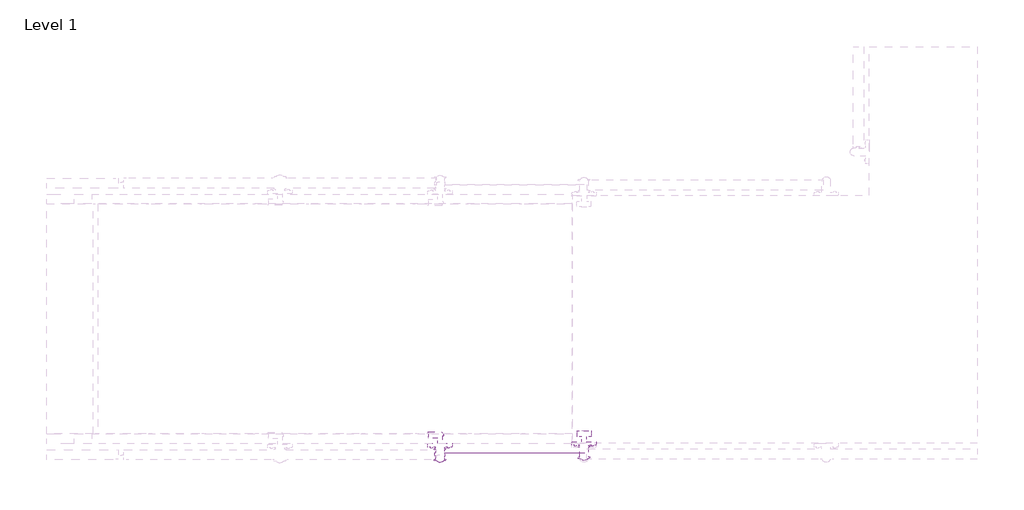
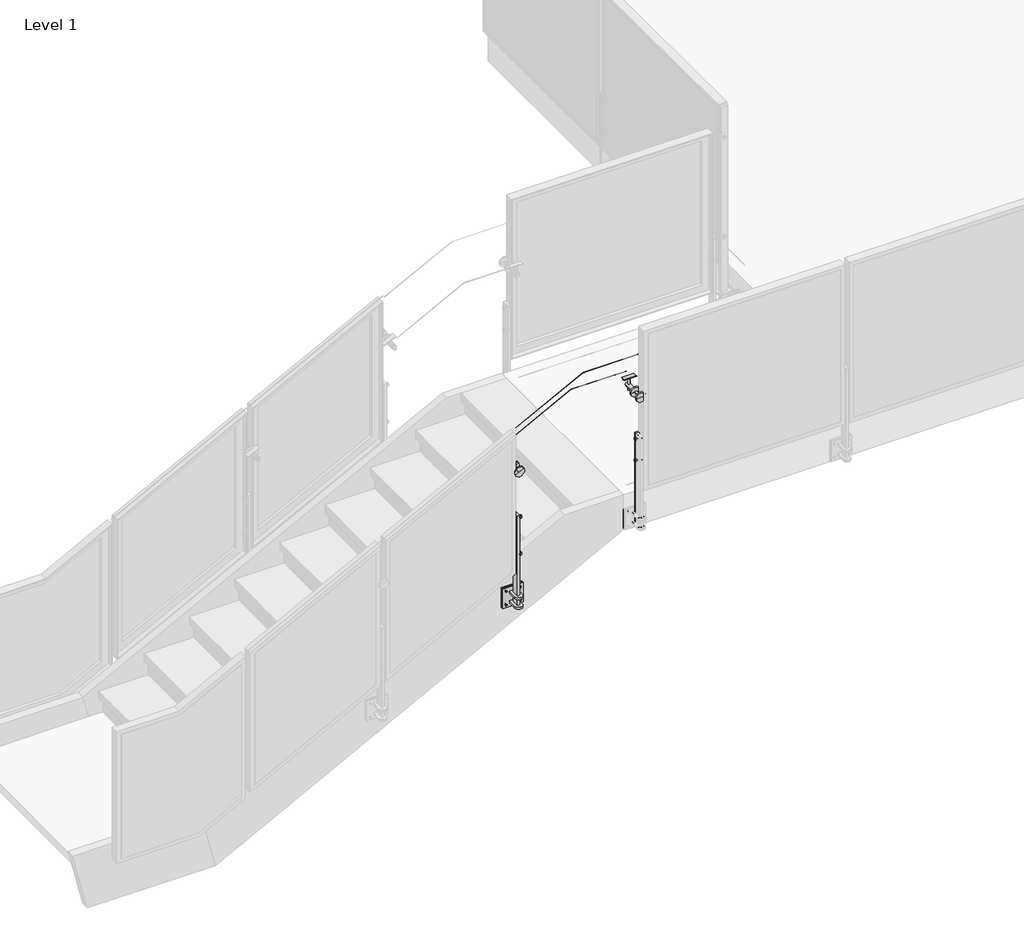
# One storey, part 24 of 37: 1 proxy, 1 railing.
"""IFC4 building model written with IfcOpenShell, lengths in millimetres."""

from ifc_helpers import new_model, si_unit, point, frame, frame_2d, origin, place, context, project, spatial, polyline, circle_curve, ellipse_curve, trimmed, segment, composite_curve, outline, extrude, transform, mapped, element, save
from ifc_brep_helpers import plane_surface, cylinder_surface, advanced_brep
from components import baluster_end_post_viva_frame_top_mount_stairs_welded_fascia_58373508

model = new_model("IFC4")

# Units and contexts
model_context = context("Model", 3, world=origin())
ifc_project = project(units=[si_unit("LENGTHUNIT", "METRE", prefix="MILLI")], contexts=[model_context])

# Site, building, storey
site = spatial("IfcSite", under=ifc_project)
building = spatial("IfcBuilding", under=site)
storey = spatial("IfcBuildingStorey", under=building, Name="Level 1", Elevation=0.0)

# Proxy
placement = place(None, origin())
baluster_end_post_viva_frame_top_mount_stairs_welded_fascia_shape = baluster_end_post_viva_frame_top_mount_stairs_welded_fascia_58373508(model_context)
element("IfcBuildingElementProxy", 1, Name="Baluster-End-Post-VIVA-FRAME-Top Mount Stairs : WELDED Fascia MOUNT FRAME_STAIR", ObjectType="Baluster-End-Post-VIVA-FRAME-Top Mount Stairs : WELDED Fascia MOUNT FRAME_STAIR", at=placement, inside=storey, context=model_context, shape_type="MappedRepresentation", body=[
    mapped(baluster_end_post_viva_frame_top_mount_stairs_welded_fascia_shape, transform((-7412.9434339, -3831.4784112, 3784.092), x_axis=(1.0, 0.0, 0.0), y_axis=(0.0, 1.0, 0.0), z_axis=(0.0, 0.0, 1.0))),
])

# Railing
element("IfcRailing", 2, ObjectType="Metal-Panel-VIVA-FRAME-Fascia-Stairs-Landing-Upper", at=placement, inside=storey, context=model_context, shape_type="SolidModel", body=[
    advanced_brep(
    [(-8168.6029585, -3831.7324112, 3568.458378), (-8168.6029585, -3831.2244112, 3568.458378), (-7753.0192861, -3831.7324112, 3784.346), (-7753.0192861, -3831.2244112, 3784.346), (-7412.9434339, -3831.7324112, 3784.346), (-7412.9434339, -3831.2244112, 3784.346)],
    [
        (0, 1, ellipse_curve(frame((-8168.6029585, -3831.4784112, 3568.458378), z_axis=(-1.0, 0.0, 0.0), x_axis=(0.0, 0.0, -1.0)), 0.2862277, 0.254)),
        (1, 0, ellipse_curve(frame((-8168.6029585, -3831.4784112, 3568.458378), z_axis=(-1.0, 0.0, 0.0), x_axis=(0.0, 0.0, -1.0)), 0.2862277, 0.254)),
        (0, 2),
        (2, 3, ellipse_curve(frame((-7753.0192861, -3831.4784112, 3784.346), z_axis=(-0.9714436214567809, 0.0, -0.23727050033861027), x_axis=(0.23727050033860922, 0.0, -0.9714436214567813)), 0.2614665, 0.254)),
        (3, 1),
        (3, 2, ellipse_curve(frame((-7753.0192861, -3831.4784112, 3784.346), z_axis=(-0.9714436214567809, 0.0, -0.23727050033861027), x_axis=(0.23727050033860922, 0.0, -0.9714436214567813)), 0.2614665, 0.254)),
        (4, 5, circle_curve(frame((-7412.9434339, -3831.4784112, 3784.346), z_axis=(1.0, 0.0, 0.0), x_axis=(0.0, 1.0, 0.0)), 0.254)),
        (5, 4, circle_curve(frame((-7412.9434339, -3831.4784112, 3784.346), z_axis=(1.0, 0.0, 0.0), x_axis=(0.0, 1.0, 0.0)), 0.254)),
        (2, 4),
        (5, 3),
    ],
    [
        plane_surface(frame((-8168.6029585, -3831.4784112, 3568.7446057), z_axis=(-1.0, 0.0, 0.0), x_axis=(0.0, 1.0, 0.0))),
        cylinder_surface(frame((-8168.4858671, -3831.4784112, 3568.5192047), z_axis=(-0.8874054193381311, 0.0, -0.460989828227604), x_axis=(0.0, 1.0, 0.0)), 0.254),
        plane_surface(frame((-7412.9434339, -3831.4784112, 3784.6), z_axis=(1.0, 0.0, 0.0), x_axis=(0.0, 1.0, 0.0))),
        cylinder_surface(frame((-7753.0813244, -3831.4784112, 3784.346), z_axis=(-1.0, 0.0, 0.0), x_axis=(0.0, 1.0, 0.0)), 0.254),
    ],
    [
        (0, [[1, 2]]),
        (1, [[-1, 3, 4, 5]]),
        (1, [[-2, -5, 6, -3]]),
        (2, [[7, 8]]),
        (3, [[-4, 9, -8, 10]]),
        (3, [[-6, -10, -7, -9]]),
    ],
),
    advanced_brep(
    [(-8168.6029585, -3963.2172112, 3758.6811654), (-8168.6029585, -3962.2172112, 3758.6811654), (-7752.9592018, -3963.2172112, 3974.6), (-7752.9592018, -3962.2172112, 3974.6), (-7412.9434339, -3963.2172112, 3974.6), (-7412.9434339, -3962.2172112, 3974.6)],
    [
        (0, 1, ellipse_curve(frame((-8168.6029585, -3962.7172112, 3758.6811654), z_axis=(-1.0, 0.0, 0.0), x_axis=(0.0, 0.0, -1.0)), 0.5634403, 0.5)),
        (1, 0, ellipse_curve(frame((-8168.6029585, -3962.7172112, 3758.6811654), z_axis=(-1.0, 0.0, 0.0), x_axis=(0.0, 0.0, -1.0)), 0.5634403, 0.5)),
        (0, 2),
        (2, 3, ellipse_curve(frame((-7752.9592018, -3962.7172112, 3974.6), z_axis=(-0.9714436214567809, 0.0, -0.23727050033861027), x_axis=(0.23727050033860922, 0.0, -0.9714436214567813)), 0.5146979, 0.5)),
        (3, 1),
        (3, 2, ellipse_curve(frame((-7752.9592018, -3962.7172112, 3974.6), z_axis=(-0.9714436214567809, 0.0, -0.23727050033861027), x_axis=(0.23727050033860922, 0.0, -0.9714436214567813)), 0.5146979, 0.5)),
        (4, 5, circle_curve(frame((-7412.9434339, -3962.7172112, 3974.6), z_axis=(1.0, 0.0, 0.0), x_axis=(0.0, 1.0, 0.0)), 0.5)),
        (5, 4, circle_curve(frame((-7412.9434339, -3962.7172112, 3974.6), z_axis=(1.0, 0.0, 0.0), x_axis=(0.0, 1.0, 0.0)), 0.5)),
        (2, 4),
        (5, 3),
    ],
    [
        plane_surface(frame((-8168.6029585, -3962.7172112, 3759.2446057), z_axis=(-1.0, 0.0, 0.0), x_axis=(0.0, 1.0, 0.0))),
        cylinder_surface(frame((-8168.3724636, -3962.7172112, 3758.800903), z_axis=(-0.8874054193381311, 0.0, -0.460989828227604), x_axis=(0.0, 1.0, 0.0)), 0.5),
        plane_surface(frame((-7412.9434339, -3962.7172112, 3975.1), z_axis=(1.0, 0.0, 0.0), x_axis=(0.0, 1.0, 0.0))),
        cylinder_surface(frame((-7753.0813244, -3962.7172112, 3974.6), z_axis=(-1.0, 0.0, 0.0), x_axis=(0.0, 1.0, 0.0)), 0.5),
    ],
    [
        (0, [[1, 2]]),
        (1, [[-1, 3, 4, 5]]),
        (1, [[-2, -5, 6, -3]]),
        (2, [[7, 8]]),
        (3, [[-4, 9, -8, 10]]),
        (3, [[-6, -10, -7, -9]]),
    ],
),
    extrude(outline(composite_curve([segment(polyline([(2.99974, 0.0), (0.0, 0.0)]), True, "CONTINUOUS"), segment(trimmed(circle_curve(frame_2d((-19.0451472, -1e-07)), 19.0451471), [point((0.0, 0.0))], [point((-23.6280664, 18.4855208))], True, "CARTESIAN"), True, "CONTINUOUS"), segment(polyline([(-23.6280664, 18.4855208), (-24.3499073, 21.3971159)]), True, "CONTINUOUS"), segment(trimmed(circle_curve(frame_2d((-19.0451472, -1e-07)), 22.0448871), [point((-24.3499073, 21.3971159))], [point((2.99974, 0.0))], False, "CARTESIAN"), True, "CONTINUOUS")], self_intersect=False)), frame((-8231.0906689, -3883.4862112, 3531.2108025), z_axis=(0.887405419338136, 0.0, 0.4609898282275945), x_axis=(0.28405456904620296, -0.7876022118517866, -0.5468050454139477)), (0.0, 0.0, 1.0), 79.1184357),
    advanced_brep(
    [(-8156.2057808, -3868.4862112, 3472.8710387), (-8156.2057808, -3875.6299612, 3472.8710387), (-8156.2057808, -3861.3424612, 3472.8710387), (-8192.0650271, -3875.6299612, 3541.9000878), (-8192.0650271, -3868.4862112, 3541.9000878), (-8192.0650271, -3861.3424612, 3541.9000878)],
    [
        (0, 1),
        (1, 2, circle_curve(frame((-8156.2057808, -3868.4862112, 3472.8710387), z_axis=(0.46098982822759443, 0.0, -0.887405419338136), x_axis=(0.0, 1.0, 0.0)), 7.14375)),
        (2, 0),
        (3, 4),
        (4, 5),
        (5, 3, circle_curve(frame((-8192.0650271, -3868.4862112, 3541.9000878), z_axis=(-0.46098982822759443, 0.0, 0.887405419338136), x_axis=(0.0, 1.0, 0.0)), 7.14375)),
        (2, 1, circle_curve(frame((-8156.2057808, -3868.4862112, 3472.8710387), z_axis=(0.46098982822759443, 0.0, -0.887405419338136), x_axis=(0.0, 1.0, 0.0)), 7.14375)),
        (3, 5, circle_curve(frame((-8192.0650271, -3868.4862112, 3541.9000878), z_axis=(-0.46098982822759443, 0.0, 0.887405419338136), x_axis=(0.0, 1.0, 0.0)), 7.14375)),
        (1, 3),
        (5, 2),
    ],
    [
        plane_surface(frame((-8156.2057808, -3868.4862112, 3472.8710387), z_axis=(0.46098982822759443, 0.0, -0.887405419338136), x_axis=(0.0, 1.0, 0.0))),
        plane_surface(frame((-8192.0650271, -3868.4862112, 3541.9000878), z_axis=(-0.46098982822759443, 0.0, 0.887405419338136), x_axis=(0.0, 1.0, 0.0))),
        cylinder_surface(frame((-8039.251581, -3868.4862112, 3247.734204), z_axis=(0.46098982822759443, 0.0, -0.887405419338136), x_axis=(0.0, 1.0, 0.0)), 7.14375),
    ],
    [
        (0, [[1, 2, 3]]),
        (1, [[4, 5, 6]]),
        (0, [[-3, 7, -1]]),
        (1, [[-5, -4, 8]]),
        (2, [[9, -6, 10, -2]]),
        (2, [[-10, -8, -9, -7]]),
    ],
),
    advanced_brep(
    [(-8195.3693244, -3995.4862112, 3482.831), (-8174.2379829, -3995.4862112, 3493.8083203), (-8162.9679341, -3995.4862112, 3499.6628911), (-8141.8365925, -3995.4862112, 3510.6402114), (-8195.3693244, -4003.4237112, 3482.831), (-8141.8365925, -4003.4237112, 3510.6402114), (-8195.3693244, -3936.7487112, 3482.831), (-8179.8730073, -3936.7487112, 3490.8810349), (-8157.3329096, -3936.7487112, 3502.5901765), (-8141.8365925, -3936.7487112, 3510.6402114), (-8195.3693244, -3944.6862112, 3482.831), (-8141.8365925, -3944.6862112, 3510.6402114), (-8168.6029585, -4003.4237112, 3496.7356057), (-8179.8730073, -3857.3737112, 3490.8810349), (-8168.6029585, -3857.3737112, 3496.7356057), (-8157.3329096, -3857.3737112, 3502.5901765), (-8174.2379829, -3944.6862112, 3493.8083203), (-8162.9679341, -3944.6862112, 3499.6628911)],
    [
        (0, 1),
        (1, 2, circle_curve(frame((-8168.6029585, -3995.4862112, 3496.7356057), z_axis=(0.0, -1.0, 0.0), x_axis=(0.8874054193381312, 0.0, 0.46098982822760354)), 6.35)),
        (2, 3),
        (3, 0, circle_curve(frame((-8168.6029585, -3995.4862112, 3496.7356057), z_axis=(0.0, 1.0, 0.0), x_axis=(0.8874054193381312, 0.0, 0.46098982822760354)), 30.1625)),
        (4, 0),
        (3, 5),
        (5, 4, circle_curve(frame((-8168.6029585, -4003.4237112, 3496.7356057), z_axis=(0.0, 1.0, 0.0), x_axis=(0.8874054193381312, 0.0, 0.46098982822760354)), 30.1625)),
        (6, 7),
        (7, 8, circle_curve(frame((-8168.6029585, -3936.7487112, 3496.7356057), z_axis=(0.0, -1.0, 0.0), x_axis=(0.8874054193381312, 0.0, 0.46098982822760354)), 12.7)),
        (8, 9),
        (9, 6, circle_curve(frame((-8168.6029585, -3936.7487112, 3496.7356057), z_axis=(0.0, 1.0, 0.0), x_axis=(0.8874054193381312, 0.0, 0.46098982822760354)), 30.1625)),
        (10, 6),
        (9, 11),
        (11, 10, circle_curve(frame((-8168.6029585, -3944.6862112, 3496.7356057), z_axis=(0.0, 1.0, 0.0), x_axis=(0.8874054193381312, 0.0, 0.46098982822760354)), 30.1625)),
        (3, 0, circle_curve(frame((-8168.6029585, -3995.4862112, 3496.7356057), z_axis=(0.0, -1.0, 0.0), x_axis=(0.8874054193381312, 0.0, 0.46098982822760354)), 30.1625)),
        (4, 5, circle_curve(frame((-8168.6029585, -4003.4237112, 3496.7356057), z_axis=(0.0, 1.0, 0.0), x_axis=(0.8874054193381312, 0.0, 0.46098982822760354)), 30.1625)),
        (12, 4),
        (5, 12),
        (13, 14),
        (14, 15),
        (15, 13, circle_curve(frame((-8168.6029585, -3857.3737112, 3496.7356057), z_axis=(0.0, 1.0, 0.0), x_axis=(0.8874054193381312, 0.0, 0.46098982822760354)), 12.7)),
        (13, 15, circle_curve(frame((-8168.6029585, -3857.3737112, 3496.7356057), z_axis=(0.0, 1.0, 0.0), x_axis=(0.8874054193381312, 0.0, 0.46098982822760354)), 12.7)),
        (7, 13),
        (15, 8),
        (7, 8, circle_curve(frame((-8168.6029585, -3936.7487112, 3496.7356057), z_axis=(0.0, 1.0, 0.0), x_axis=(0.8874054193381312, 0.0, 0.46098982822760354)), 12.7)),
        (6, 9, circle_curve(frame((-8168.6029585, -3936.7487112, 3496.7356057), z_axis=(0.0, 1.0, 0.0), x_axis=(0.8874054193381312, 0.0, 0.46098982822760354)), 30.1625)),
        (10, 11, circle_curve(frame((-8168.6029585, -3944.6862112, 3496.7356057), z_axis=(0.0, 1.0, 0.0), x_axis=(0.8874054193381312, 0.0, 0.46098982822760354)), 30.1625)),
        (16, 10),
        (11, 17),
        (17, 16, circle_curve(frame((-8168.6029585, -3944.6862112, 3496.7356057), z_axis=(0.0, 1.0, 0.0), x_axis=(0.8874054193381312, 0.0, 0.46098982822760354)), 6.35)),
        (16, 17, circle_curve(frame((-8168.6029585, -3944.6862112, 3496.7356057), z_axis=(0.0, 1.0, 0.0), x_axis=(0.8874054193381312, 0.0, 0.46098982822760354)), 6.35)),
        (1, 16),
        (17, 2),
        (1, 2, circle_curve(frame((-8168.6029585, -3995.4862112, 3496.7356057), z_axis=(0.0, 1.0, 0.0), x_axis=(0.8874054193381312, 0.0, 0.46098982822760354)), 6.35)),
    ],
    [
        plane_surface(frame((-8168.6029585, -3995.4862112, 3496.7356057), z_axis=(0.0, 1.0, 0.0), x_axis=(0.8874054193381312, 0.0, 0.46098982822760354))),
        cylinder_surface(frame((-8168.6029585, -5468.6862112, 3496.7356057), z_axis=(0.0, -1.0, 0.0), x_axis=(0.8874054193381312, 0.0, 0.46098982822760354)), 30.1625),
        plane_surface(frame((-8168.6029585, -3936.7487112, 3496.7356057), z_axis=(0.0, 1.0, 0.0), x_axis=(0.8874054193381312, 0.0, 0.46098982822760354))),
        plane_surface(frame((-8168.6029585, -4003.4237112, 3496.7356057), z_axis=(0.0, -1.0, 0.0), x_axis=(0.8874054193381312, 0.0, 0.46098982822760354))),
        plane_surface(frame((-8168.6029585, -3857.3737112, 3496.7356057), z_axis=(0.0, 1.0, 0.0), x_axis=(0.8874054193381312, 0.0, 0.46098982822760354))),
        cylinder_surface(frame((-8168.6029585, -5468.6862112, 3496.7356057), z_axis=(0.0, -1.0, 0.0), x_axis=(0.8874054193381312, 0.0, 0.46098982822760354)), 12.7),
        plane_surface(frame((-8168.6029585, -3944.6862112, 3496.7356057), z_axis=(0.0, -1.0, 0.0), x_axis=(0.8874054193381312, 0.0, 0.46098982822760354))),
        cylinder_surface(frame((-8168.6029585, -5468.6862112, 3496.7356057), z_axis=(0.0, -1.0, 0.0), x_axis=(0.8874054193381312, 0.0, 0.46098982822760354)), 6.35),
    ],
    [
        (0, [[1, 2, 3, 4]]),
        (1, [[5, -4, 6, 7]]),
        (2, [[8, 9, 10, 11]]),
        (1, [[12, -11, 13, 14]]),
        (1, [[-6, 15, -5, 16]]),
        (3, [[17, -7, 18]]),
        (3, [[-18, -16, -17]]),
        (4, [[19, 20, 21]]),
        (4, [[-20, -19, 22]]),
        (5, [[23, -21, 24, -9]]),
        (5, [[-24, -22, -23, 25]]),
        (2, [[-10, -25, -8, 26]]),
        (1, [[-13, -26, -12, 27]]),
        (6, [[28, -14, 29, 30]]),
        (6, [[-29, -27, -28, 31]]),
        (7, [[32, -30, 33, -2]]),
        (7, [[-33, -31, -32, 34]]),
        (0, [[-3, -34, -1, -15]]),
    ],
),
    extrude(outline(composite_curve([segment(polyline([(-8191.6407585, -3989.8871179), (-8191.6407585, -3931.9862112), (-8145.5651585, -3931.9862112), (-8145.5651585, -3989.8871179)]), True, "CONTINUOUS"), segment(trimmed(circle_curve(frame_2d((-8168.6029585, -3989.8871179)), 23.0378), [point((-8145.5651585, -3989.8871179))], [point((-8191.6407585, -3989.8871179))], False, "CARTESIAN"), True, "CONTINUOUS")], self_intersect=False)), frame((0.0, 0.0, 2607.7780857), z_axis=(0.0, 0.0, 1.0), x_axis=(1.0, 0.0, 0.0)), (0.0, 0.0, 1.0), 12.7),
    extrude(outline(composite_curve([segment(polyline([(-8145.5651585, -3931.9862112), (-8145.5651585, -3989.8871179)]), True, "CONTINUOUS"), segment(trimmed(circle_curve(frame_2d((-8168.6029585, -3989.8871179)), 23.0378), [point((-8145.5651585, -3989.8871179))], [point((-8191.6407585, -3989.8871179))], False, "CARTESIAN"), True, "CONTINUOUS"), segment(polyline([(-8191.6407585, -3989.8871179), (-8191.6407585, -3931.9862112), (-8145.5651585, -3931.9862112)]), True, "CONTINUOUS")], self_intersect=False)), frame((0.0, 0.0, 2669.7032857), z_axis=(0.0, 0.0, 1.0), x_axis=(1.0, 0.0, 0.0)), (0.0, 0.0, 1.0), 12.7),
    extrude(outline(composite_curve([segment(trimmed(circle_curve(frame_2d((2690.3534857, -8124.1580266)), 4.7752), [point((2690.3534857, -8119.3828266))], [point((2690.3534857, -8128.9332266))], False, "CARTESIAN"), True, "CONTINUOUS"), segment(trimmed(circle_curve(frame_2d((2690.3534857, -8124.1580266)), 4.7752), [point((2690.3534857, -8128.9332266))], [point((2690.3534857, -8119.3828266))], False, "CARTESIAN"), True, "CONTINUOUS")], self_intersect=False)), frame((0.0, -3936.7614112, 0.0), z_axis=(0.0, 1.0, 0.0), x_axis=(0.0, 0.0, 1.0)), (0.0, 0.0, 1.0), 14.3002),
    extrude(outline(composite_curve([segment(trimmed(circle_curve(frame_2d((2690.3534857, -8213.0478904)), 4.7752), [point((2690.3534857, -8208.2726904))], [point((2690.3534857, -8217.8230904))], False, "CARTESIAN"), True, "CONTINUOUS"), segment(trimmed(circle_curve(frame_2d((2690.3534857, -8213.0478904)), 4.7752), [point((2690.3534857, -8217.8230904))], [point((2690.3534857, -8208.2726904))], False, "CARTESIAN"), True, "CONTINUOUS")], self_intersect=False)), frame((0.0, -3936.7614112, 0.0), z_axis=(0.0, 1.0, 0.0), x_axis=(0.0, 0.0, 1.0)), (0.0, 0.0, 1.0), 14.3002),
    extrude(outline(composite_curve([segment(trimmed(circle_curve(frame_2d((2601.4534857, -8213.0478904)), 4.7752), [point((2601.4534857, -8208.2726904))], [point((2601.4534857, -8217.8230904))], False, "CARTESIAN"), True, "CONTINUOUS"), segment(trimmed(circle_curve(frame_2d((2601.4534857, -8213.0478904)), 4.7752), [point((2601.4534857, -8217.8230904))], [point((2601.4534857, -8208.2726904))], False, "CARTESIAN"), True, "CONTINUOUS")], self_intersect=False)), frame((0.0, -3936.7614112, 0.0), z_axis=(0.0, 1.0, 0.0), x_axis=(0.0, 0.0, 1.0)), (0.0, 0.0, 1.0), 14.3002),
    extrude(outline(composite_curve([segment(trimmed(circle_curve(frame_2d((2601.4534857, -8124.1580266)), 4.7752), [point((2601.4534857, -8119.3828266))], [point((2601.4534857, -8128.9332266))], False, "CARTESIAN"), True, "CONTINUOUS"), segment(trimmed(circle_curve(frame_2d((2601.4534857, -8124.1580266)), 4.7752), [point((2601.4534857, -8128.9332266))], [point((2601.4534857, -8119.3828266))], False, "CARTESIAN"), True, "CONTINUOUS")], self_intersect=False)), frame((0.0, -3936.7614112, 0.0), z_axis=(0.0, 1.0, 0.0), x_axis=(0.0, 0.0, 1.0)), (0.0, 0.0, 1.0), 14.3002),
    extrude(outline(polyline([(-8105.1049369, -3922.4612112), (-8232.10098, -3922.4612112), (-8232.10098, -3912.9362112), (-8105.1049369, -3912.9362112), (-8105.1049369, -3922.4612112)])), frame((0.0, 0.0, 2582.4034857), z_axis=(0.0, 0.0, 1.0), x_axis=(1.0, 0.0, 0.0)), (0.0, 0.0, 1.0), 127.0),
    extrude(outline(polyline([(-8105.1049369, -3931.9862112), (-8232.10098, -3931.9862112), (-8232.10098, -3922.4612112), (-8105.1049369, -3922.4612112), (-8105.1049369, -3931.9862112)])), frame((0.0, 0.0, 2582.4034857), z_axis=(0.0, 0.0, 1.0), x_axis=(1.0, 0.0, 0.0)), (0.0, 0.0, 1.0), 127.0),
    advanced_brep(
    [(-8194.7903585, -3970.0862112, 2926.8528857), (-8194.7903585, -3970.0862112, 2945.9536857), (-8194.7903585, -3970.0862112, 2936.4032857), (-8190.0151585, -3970.0862112, 2926.8528857), (-8190.0151585, -3970.0862112, 2945.9536857), (-8190.0151585, -3970.0862112, 2931.6280857), (-8190.0151585, -3970.0862112, 2941.1784857), (-8147.1907585, -3970.0862112, 2931.6280857), (-8147.1907585, -3970.0862112, 2941.1784857), (-8147.1907585, -3970.0862112, 2926.8528857), (-8147.1907585, -3970.0862112, 2945.9536857), (-8142.4155585, -3970.0862112, 2926.8528857), (-8142.4155585, -3970.0862112, 2945.9536857), (-8142.4155585, -3970.0862112, 2936.4032857)],
    [
        (0, 1, circle_curve(frame((-8194.7903585, -3970.0862112, 2936.4032857), z_axis=(-1.0, 0.0, 0.0), x_axis=(0.0, 0.0, 1.0)), 9.5504)),
        (1, 2),
        (2, 0),
        (1, 0, circle_curve(frame((-8194.7903585, -3970.0862112, 2936.4032857), z_axis=(-1.0, 0.0, 0.0), x_axis=(0.0, 0.0, 1.0)), 9.5504)),
        (3, 4, circle_curve(frame((-8190.0151585, -3970.0862112, 2936.4032857), z_axis=(-1.0, 0.0, 0.0), x_axis=(0.0, 0.0, 1.0)), 9.5504)),
        (4, 1),
        (0, 3),
        (4, 3, circle_curve(frame((-8190.0151585, -3970.0862112, 2936.4032857), z_axis=(-1.0, 0.0, 0.0), x_axis=(0.0, 0.0, 1.0)), 9.5504)),
        (5, 6, circle_curve(frame((-8190.0151585, -3970.0862112, 2936.4032857), z_axis=(-1.0, 0.0, 0.0), x_axis=(0.0, 0.0, 1.0)), 4.7752)),
        (6, 4),
        (3, 5),
        (6, 5, circle_curve(frame((-8190.0151585, -3970.0862112, 2936.4032857), z_axis=(-1.0, 0.0, 0.0), x_axis=(0.0, 0.0, 1.0)), 4.7752)),
        (7, 8, circle_curve(frame((-8147.1907585, -3970.0862112, 2936.4032857), z_axis=(-1.0, 0.0, 0.0), x_axis=(0.0, 0.0, 1.0)), 4.7752)),
        (8, 6),
        (5, 7),
        (8, 7, circle_curve(frame((-8147.1907585, -3970.0862112, 2936.4032857), z_axis=(-1.0, 0.0, 0.0), x_axis=(0.0, 0.0, 1.0)), 4.7752)),
        (9, 10, circle_curve(frame((-8147.1907585, -3970.0862112, 2936.4032857), z_axis=(-1.0, 0.0, 0.0), x_axis=(0.0, 0.0, 1.0)), 9.5504)),
        (10, 8),
        (7, 9),
        (10, 9, circle_curve(frame((-8147.1907585, -3970.0862112, 2936.4032857), z_axis=(-1.0, 0.0, 0.0), x_axis=(0.0, 0.0, 1.0)), 9.5504)),
        (11, 12, circle_curve(frame((-8142.4155585, -3970.0862112, 2936.4032857), z_axis=(-1.0, 0.0, 0.0), x_axis=(0.0, 0.0, 1.0)), 9.5504)),
        (12, 10),
        (9, 11),
        (12, 11, circle_curve(frame((-8142.4155585, -3970.0862112, 2936.4032857), z_axis=(-1.0, 0.0, 0.0), x_axis=(0.0, 0.0, 1.0)), 9.5504)),
        (13, 12),
        (11, 13),
    ],
    [
        plane_surface(frame((-8194.7903585, -3970.0862112, 2936.4032857), z_axis=(-1.0, 0.0, 0.0), x_axis=(0.0, 0.0, 1.0))),
        cylinder_surface(frame((-11586.3707156, -3970.0862112, 2936.4032857), z_axis=(1.0, 0.0, 0.0), x_axis=(0.0, 0.0, 1.0)), 9.5504),
        plane_surface(frame((-8190.0151585, -3970.0862112, 2936.4032857), z_axis=(1.0, 0.0, 0.0), x_axis=(0.0, 0.0, 1.0))),
        cylinder_surface(frame((-11586.3707156, -3970.0862112, 2936.4032857), z_axis=(1.0, 0.0, 0.0), x_axis=(0.0, 0.0, 1.0)), 4.7752),
        plane_surface(frame((-8147.1907585, -3970.0862112, 2936.4032857), z_axis=(-1.0, 0.0, 0.0), x_axis=(0.0, 0.0, 1.0))),
        plane_surface(frame((-8142.4155585, -3970.0862112, 2936.4032857), z_axis=(1.0, 0.0, 0.0), x_axis=(0.0, 0.0, 1.0))),
    ],
    [
        (0, [[1, 2, 3]]),
        (0, [[4, -3, -2]]),
        (1, [[5, 6, -1, 7]]),
        (1, [[8, -7, -4, -6]]),
        (2, [[9, 10, -5, 11]]),
        (2, [[12, -11, -8, -10]]),
        (3, [[13, 14, -9, 15]]),
        (3, [[16, -15, -12, -14]]),
        (4, [[17, 18, -13, 19]]),
        (4, [[20, -19, -16, -18]]),
        (1, [[21, 22, -17, 23]]),
        (1, [[24, -23, -20, -22]]),
        (5, [[25, -21, 26]]),
        (5, [[-26, -24, -25]]),
    ],
),
    advanced_brep(
    [(-8194.7903585, -3970.0862112, 3168.1528857), (-8194.7903585, -3970.0862112, 3187.2536857), (-8194.7903585, -3970.0862112, 3177.7032857), (-8190.0151585, -3970.0862112, 3168.1528857), (-8190.0151585, -3970.0862112, 3187.2536857), (-8190.0151585, -3970.0862112, 3172.9280857), (-8190.0151585, -3970.0862112, 3182.4784857), (-8147.1907585, -3970.0862112, 3172.9280857), (-8147.1907585, -3970.0862112, 3182.4784857), (-8147.1907585, -3970.0862112, 3168.1528857), (-8147.1907585, -3970.0862112, 3187.2536857), (-8142.4155585, -3970.0862112, 3168.1528857), (-8142.4155585, -3970.0862112, 3187.2536857), (-8142.4155585, -3970.0862112, 3177.7032857)],
    [
        (0, 1, circle_curve(frame((-8194.7903585, -3970.0862112, 3177.7032857), z_axis=(-1.0, 0.0, 0.0), x_axis=(0.0, 0.0, 1.0)), 9.5504)),
        (1, 2),
        (2, 0),
        (1, 0, circle_curve(frame((-8194.7903585, -3970.0862112, 3177.7032857), z_axis=(-1.0, 0.0, 0.0), x_axis=(0.0, 0.0, 1.0)), 9.5504)),
        (3, 4, circle_curve(frame((-8190.0151585, -3970.0862112, 3177.7032857), z_axis=(-1.0, 0.0, 0.0), x_axis=(0.0, 0.0, 1.0)), 9.5504)),
        (4, 1),
        (0, 3),
        (4, 3, circle_curve(frame((-8190.0151585, -3970.0862112, 3177.7032857), z_axis=(-1.0, 0.0, 0.0), x_axis=(0.0, 0.0, 1.0)), 9.5504)),
        (5, 6, circle_curve(frame((-8190.0151585, -3970.0862112, 3177.7032857), z_axis=(-1.0, 0.0, 0.0), x_axis=(0.0, 0.0, 1.0)), 4.7752)),
        (6, 4),
        (3, 5),
        (6, 5, circle_curve(frame((-8190.0151585, -3970.0862112, 3177.7032857), z_axis=(-1.0, 0.0, 0.0), x_axis=(0.0, 0.0, 1.0)), 4.7752)),
        (7, 8, circle_curve(frame((-8147.1907585, -3970.0862112, 3177.7032857), z_axis=(-1.0, 0.0, 0.0), x_axis=(0.0, 0.0, 1.0)), 4.7752)),
        (8, 6),
        (5, 7),
        (8, 7, circle_curve(frame((-8147.1907585, -3970.0862112, 3177.7032857), z_axis=(-1.0, 0.0, 0.0), x_axis=(0.0, 0.0, 1.0)), 4.7752)),
        (9, 10, circle_curve(frame((-8147.1907585, -3970.0862112, 3177.7032857), z_axis=(-1.0, 0.0, 0.0), x_axis=(0.0, 0.0, 1.0)), 9.5504)),
        (10, 8),
        (7, 9),
        (10, 9, circle_curve(frame((-8147.1907585, -3970.0862112, 3177.7032857), z_axis=(-1.0, 0.0, 0.0), x_axis=(0.0, 0.0, 1.0)), 9.5504)),
        (11, 12, circle_curve(frame((-8142.4155585, -3970.0862112, 3177.7032857), z_axis=(-1.0, 0.0, 0.0), x_axis=(0.0, 0.0, 1.0)), 9.5504)),
        (12, 10),
        (9, 11),
        (12, 11, circle_curve(frame((-8142.4155585, -3970.0862112, 3177.7032857), z_axis=(-1.0, 0.0, 0.0), x_axis=(0.0, 0.0, 1.0)), 9.5504)),
        (13, 12),
        (11, 13),
    ],
    [
        plane_surface(frame((-8194.7903585, -3970.0862112, 3177.7032857), z_axis=(-1.0, 0.0, 0.0), x_axis=(0.0, 0.0, 1.0))),
        cylinder_surface(frame((-11586.3707156, -3970.0862112, 3177.7032857), z_axis=(1.0, 0.0, 0.0), x_axis=(0.0, 0.0, 1.0)), 9.5504),
        plane_surface(frame((-8190.0151585, -3970.0862112, 3177.7032857), z_axis=(1.0, 0.0, 0.0), x_axis=(0.0, 0.0, 1.0))),
        cylinder_surface(frame((-11586.3707156, -3970.0862112, 3177.7032857), z_axis=(1.0, 0.0, 0.0), x_axis=(0.0, 0.0, 1.0)), 4.7752),
        plane_surface(frame((-8147.1907585, -3970.0862112, 3177.7032857), z_axis=(-1.0, 0.0, 0.0), x_axis=(0.0, 0.0, 1.0))),
        plane_surface(frame((-8142.4155585, -3970.0862112, 3177.7032857), z_axis=(1.0, 0.0, 0.0), x_axis=(0.0, 0.0, 1.0))),
    ],
    [
        (0, [[1, 2, 3]]),
        (0, [[4, -3, -2]]),
        (1, [[5, 6, -1, 7]]),
        (1, [[8, -7, -4, -6]]),
        (2, [[9, 10, -5, 11]]),
        (2, [[12, -11, -8, -10]]),
        (3, [[13, 14, -9, 15]]),
        (3, [[16, -15, -12, -14]]),
        (4, [[17, 18, -13, 19]]),
        (4, [[20, -19, -16, -18]]),
        (1, [[21, 22, -17, 23]]),
        (1, [[24, -23, -20, -22]]),
        (5, [[25, -21, 26]]),
        (5, [[-26, -24, -25]]),
    ],
),
    extrude(outline(polyline([(-8176.5425501, -3947.8612112), (-8160.6633668, -3947.8612112), (-8160.6633668, -3992.3112112), (-8176.5425501, -3992.3112112), (-8176.5425501, -3947.8612112)])), frame((0.0, 0.0, 2614.1280857), z_axis=(0.0, 0.0, 1.0), x_axis=(1.0, 0.0, 0.0)), (0.0, 0.0, 1.0), 588.9752),
])

save(model, "model.ifc")
